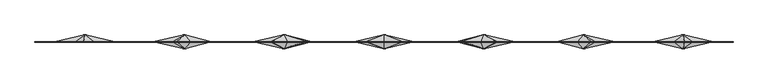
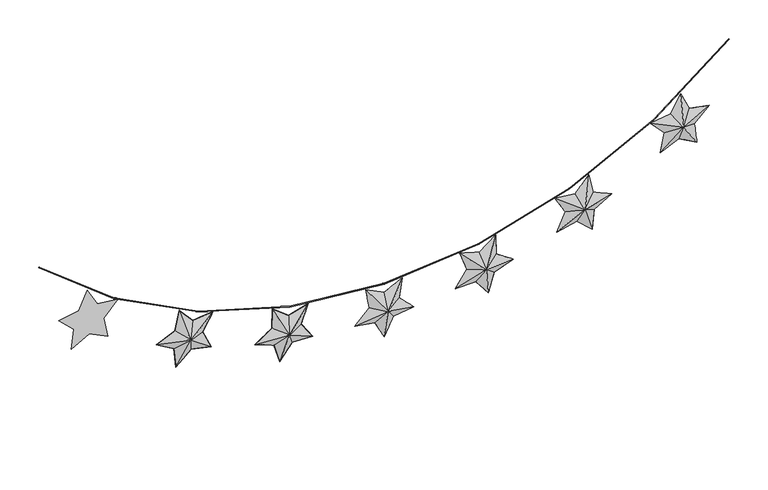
"""IFC4 building model written with IfcOpenShell, lengths in millimetres: furniture geometry, Гирлянда_звездочки_world_of_REVIT : Гирлянда звездочки_world_of_REVIT."""

from ifc_helpers import new_model, si_unit, point, frame, origin, place, context, project, spatial, circle_curve, ellipse_curve, trimmed, source, transform, mapped, element, save
from ifc_brep_helpers import plane_surface, revolved_surface, spline_surface, advanced_brep


def furniture_6a52702a(model_context):
    return source(origin(), model_context, "Body", "AdvancedBrep", [
        advanced_brep(
        [(0.0922072, -20.0, 1527.5237632), (-0.1817259, -20.0, 1526.6806837), (0.5889831, -20.0, 1526.1161692), (1.3269529, -20.0, 1526.6523356), (1.0364943, -20.0, 1527.5237632), (-52.5, 0.0, 1599.9107264), (0.4006727, 0.0, 1572.9564873), (53.3013454, 0.0, 1599.9107264), (44.0135476, 0.0, 1541.269879), (85.9957592, 0.0, 1499.2876674), (27.3549117, 0.0, 1489.9998696), (0.4006727, 0.0, 1437.0991969), (-26.5535663, 0.0, 1489.9998696), (-85.1944138, 0.0, 1499.2876674), (-43.2122022, 0.0, 1541.269879)],
        [
            (0, 1),
            (1, 2),
            (2, 3),
            (3, 4),
            (4, 0),
            (5, 6),
            (6, 7),
            (7, 8),
            (8, 9),
            (9, 10),
            (10, 11),
            (11, 12),
            (12, 13),
            (13, 14),
            (14, 5),
            (14, 1),
            (0, 5),
            (13, 1),
            (12, 1),
            (11, 2),
            (10, 3),
            (9, 3),
            (8, 4),
            (7, 4),
            (6, 0),
        ],
        [
            plane_surface(frame((0.5725823, -20.0, 1526.899343), z_axis=(0.0, -1.0000000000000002, 0.0), x_axis=(-0.3090169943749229, 0.0, -0.9510565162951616))),
            plane_surface(frame((0.4006727, 0.0, 1527.0991969), z_axis=(0.0, 1.0000000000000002, 0.0), x_axis=(-0.3090169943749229, 0.0, -0.9510565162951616))),
            spline_surface(1, 1, [[(-52.5, 0.0, 1599.9107264), (0.0922072, -20.0, 1527.5237632)], [(-43.2122022, 0.0, 1541.269879), (-0.1817259, -20.0, 1526.6806837)]], [2, 2], [2, 2], [0.0, 1.0], [0.0, 1.0]),
            plane_surface(frame((-64.203308, 0.0, 1520.2787732), z_axis=(-0.3115874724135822, -0.8976783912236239, 0.31158747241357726), x_axis=(-0.7071067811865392, 0.0, -0.707106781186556))),
            plane_surface(frame((-55.87399, 0.0, 1494.6437685), z_axis=(-0.06946642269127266, -0.8959966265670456, -0.43859373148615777), x_axis=(0.9876883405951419, 0.0, -0.15643446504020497))),
            spline_surface(1, 1, [[(-26.5535663, 0.0, 1489.9998696), (-0.1817259, -20.0, 1526.6806837)], [(0.4006727, 0.0, 1437.0991969), (0.5889831, -20.0, 1526.1161692)]], [2, 2], [2, 2], [0.0, 1.0], [0.0, 1.0]),
            spline_surface(1, 1, [[(0.4006727, 0.0, 1437.0991969), (0.5889831, -20.0, 1526.1161692)], [(27.3549117, 0.0, 1489.9998696), (1.3269529, -20.0, 1526.6523356)]], [2, 2], [2, 2], [0.0, 1.0], [0.0, 1.0]),
            plane_surface(frame((56.6753355, 0.0, 1494.6437685), z_axis=(0.06957961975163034, -0.8956376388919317, -0.43930842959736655), x_axis=(0.987688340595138, 0.0, 0.1564344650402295))),
            spline_surface(1, 1, [[(85.9957592, 0.0, 1499.2876674), (1.3269529, -20.0, 1526.6523356)], [(44.0135476, 0.0, 1541.269879), (1.0364943, -20.0, 1527.5237632)]], [2, 2], [2, 2], [0.0, 1.0], [0.0, 1.0]),
            plane_surface(frame((48.6574465, 0.0, 1570.5903027), z_axis=(0.4390925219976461, -0.8957461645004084, -0.06954542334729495), x_axis=(0.1564344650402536, 0.0, 0.9876883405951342))),
            spline_surface(1, 1, [[(53.3013454, 0.0, 1599.9107264), (1.0364943, -20.0, 1527.5237632)], [(0.4006727, 0.0, 1572.9564873), (0.0922072, -20.0, 1527.5237632)]], [2, 2], [2, 2], [0.0, 1.0], [0.0, 1.0]),
            plane_surface(frame((-26.0496636, 0.0, 1586.4336069), z_axis=(0.2005366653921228, -0.8971529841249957, 0.393575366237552), x_axis=(-0.8910065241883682, 0.0, 0.45399049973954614))),
        ],
        [
            (0, [[1, 2, 3, 4, 5]]),
            (1, [[6, 7, 8, 9, 10, 11, 12, 13, 14, 15]]),
            (2, [[-15, 16, -1, 17]]),
            (3, [[-14, 18, -16]]),
            (4, [[-13, 19, -18]]),
            (5, [[-12, 20, -2, -19]]),
            (6, [[-11, 21, -3, -20]]),
            (7, [[-10, 22, -21]]),
            (8, [[-9, 23, -4, -22]]),
            (9, [[-8, 24, -23]]),
            (10, [[-7, 25, -5, -24]]),
            (11, [[-6, -17, -25]]),
        ],
    ),
        advanced_brep(
        [(0.0922072, 20.0, 1527.5237632), (1.0364943, 20.0, 1527.5237632), (1.3269529, 20.0, 1526.6523356), (0.5889831, 20.0, 1526.1161692), (-0.1817259, 20.0, 1526.6806837), (-52.5, 0.0, 1599.9107264), (-43.2122022, 0.0, 1541.269879), (-85.1944138, 0.0, 1499.2876674), (-26.5535663, 0.0, 1489.9998696), (0.4006727, 0.0, 1437.0991969), (27.3549117, 0.0, 1489.9998696), (85.9957592, 0.0, 1499.2876674), (44.0135476, 0.0, 1541.269879), (53.3013454, 0.0, 1599.9107264), (0.4006727, 0.0, 1572.9564873)],
        [
            (0, 1),
            (1, 2),
            (2, 3),
            (3, 4),
            (4, 0),
            (5, 6),
            (6, 7),
            (7, 8),
            (8, 9),
            (9, 10),
            (10, 11),
            (11, 12),
            (12, 13),
            (13, 14),
            (14, 5),
            (5, 0),
            (4, 6),
            (4, 7),
            (4, 8),
            (3, 9),
            (11, 2),
            (1, 12),
            (1, 13),
            (1, 14),
            (10, 3),
        ],
        [
            plane_surface(frame((0.5725823, 20.0, 1526.899343), z_axis=(0.0, 1.0, 0.0), x_axis=(1.0, 0.0, 0.0))),
            plane_surface(frame((0.4006727, 0.0, 1527.0991969), z_axis=(0.0, -1.0, 0.0), x_axis=(1.0, 0.0, 0.0))),
            spline_surface(1, 1, [[(-43.2122022, 0.0, 1541.269879), (-0.1817259, 20.0, 1526.6806837)], [(-52.5, 0.0, 1599.9107264), (0.0922072, 20.0, 1527.5237632)]], [2, 2], [2, 2], [0.0, 1.0], [0.0, 1.0]),
            plane_surface(frame((-64.203308, 0.0, 1520.2787732), z_axis=(-0.31158747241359, 0.8976783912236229, 0.31158747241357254), x_axis=(0.7071067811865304, 0.0, 0.7071067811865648))),
            plane_surface(frame((-55.87399, 0.0, 1494.6437685), z_axis=(-0.06946642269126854, 0.895996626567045, -0.43859373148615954), x_axis=(-0.9876883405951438, 0.0, 0.1564344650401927))),
            spline_surface(1, 1, [[(0.4006727, 0.0, 1437.0991969), (0.5889831, 20.0, 1526.1161692)], [(-26.5535663, 0.0, 1489.9998696), (-0.1817259, 20.0, 1526.6806837)]], [2, 2], [2, 2], [0.0, 1.0], [0.0, 1.0]),
            spline_surface(1, 1, [[(44.0135476, 0.0, 1541.269879), (1.0364943, 20.0, 1527.5237632)], [(85.9957592, 0.0, 1499.2876674), (1.3269529, 20.0, 1526.6523356)]], [2, 2], [2, 2], [0.0, 1.0], [0.0, 1.0]),
            plane_surface(frame((48.6574465, 0.0, 1570.5903027), z_axis=(0.4390925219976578, 0.8957461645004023, -0.06954542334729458), x_axis=(-0.15643446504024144, 0.0, -0.9876883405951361))),
            plane_surface(frame((26.8510091, 0.0, 1586.4336069), z_axis=(-0.19994765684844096, 0.8977906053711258, 0.39241937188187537), x_axis=(0.8910065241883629, 0.0, 0.4539904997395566))),
            spline_surface(1, 1, [[(-52.5, 0.0, 1599.9107264), (0.0922072, 20.0, 1527.5237632)], [(0.4006727, 0.0, 1572.9564873), (1.0364943, 20.0, 1527.5237632)]], [2, 2], [2, 2], [0.0, 1.0], [0.0, 1.0]),
            spline_surface(1, 1, [[(85.9957592, 0.0, 1499.2876674), (1.3269529, 20.0, 1526.6523356)], [(27.3549117, 0.0, 1489.9998696), (0.5889831, 20.0, 1526.1161692)]], [2, 2], [2, 2], [0.0, 1.0], [0.0, 1.0]),
            plane_surface(frame((13.8777922, 0.0, 1463.5495332), z_axis=(0.396525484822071, 0.8955151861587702, -0.2020398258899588), x_axis=(-0.4539904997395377, 0.0, -0.8910065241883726))),
        ],
        [
            (0, [[1, 2, 3, 4, 5]]),
            (1, [[6, 7, 8, 9, 10, 11, 12, 13, 14, 15]]),
            (2, [[-6, 16, -5, 17]]),
            (3, [[-7, -17, 18]]),
            (4, [[-8, -18, 19]]),
            (5, [[-9, -19, -4, 20]]),
            (6, [[-12, 21, -2, 22]]),
            (7, [[-13, -22, 23]]),
            (8, [[-14, -23, 24]]),
            (9, [[-15, -24, -1, -16]]),
            (10, [[-11, 25, -3, -21]]),
            (11, [[-10, -20, -25]]),
        ],
    ),
        advanced_brep(
        [(-1000.6896552, 0.0, 1998.5517241), (-999.3103448, 0.0, 2000.0), (1000.6896552, 0.0, 1998.5517241), (999.3103448, 0.0, 2000.0)],
        [
            (0, 1, circle_curve(frame((-1000.0, 0.0, 1999.2758621), z_axis=(-0.7241379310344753, 0.0, 0.6896551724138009), x_axis=(0.6896551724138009, 0.0, 0.7241379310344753)), 1.0)),
            (1, 0, circle_curve(frame((-1000.0, 0.0, 1999.2758621), z_axis=(-0.7241379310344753, 0.0, 0.6896551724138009), x_axis=(0.6896551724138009, 0.0, 0.7241379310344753)), 1.0)),
            (2, 3, circle_curve(frame((1000.0, 0.0, 1999.2758621), z_axis=(0.7241379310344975, 0.0, 0.6896551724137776), x_axis=(-0.6896551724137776, 0.0, 0.7241379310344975)), 1.0)),
            (3, 2, circle_curve(frame((1000.0, 0.0, 1999.2758621), z_axis=(0.7241379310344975, 0.0, 0.6896551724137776), x_axis=(-0.6896551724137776, 0.0, 0.7241379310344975)), 1.0)),
            (3, 1, circle_curve(frame((0.0, 0.0, 3049.2758621), z_axis=(0.0, 1.0, 0.0), x_axis=(-0.6896551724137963, 0.0, -0.7241379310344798)), 1449.0)),
            (0, 2, circle_curve(frame((0.0, 0.0, 3049.2758621), z_axis=(0.0, -1.0, 0.0), x_axis=(-0.6896551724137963, 0.0, -0.7241379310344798)), 1451.0)),
        ],
        [
            plane_surface(frame((-1000.0, 0.0, 1999.2758621), z_axis=(-0.7241379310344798, 0.0, 0.6896551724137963), x_axis=(0.0, -1.0, 0.0))),
            plane_surface(frame((1000.0, 0.0, 1999.2758621), z_axis=(0.7241379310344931, 0.0, 0.6896551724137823), x_axis=(0.0, -1.0, 0.0))),
            revolved_surface(trimmed(ellipse_curve(frame((-1000.0, 0.0, 1999.2758621), z_axis=(-0.7241379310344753, 0.0, 0.6896551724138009), x_axis=(0.6896551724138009, 0.0, 0.7241379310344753)), 1.0, 1.0), [point((-1000.6896552, 0.0, 1998.5517241))], [point((-999.3103448, 0.0, 2000.0))], True, "CARTESIAN"), (0.0, 0.0, 3049.2758621), (0.0, -1.0, 0.0)),
            revolved_surface(trimmed(ellipse_curve(frame((-1000.0, 0.0, 1999.2758621), z_axis=(-0.7241379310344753, 0.0, 0.6896551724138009), x_axis=(0.6896551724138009, 0.0, 0.7241379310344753)), 1.0, 1.0), [point((-999.3103448, 0.0, 2000.0))], [point((-1000.6896552, 0.0, 1998.5517241))], True, "CARTESIAN"), (0.0, 0.0, 3049.2758621), (0.0, -1.0, 0.0)),
        ],
        [
            (0, [[1, 2]]),
            (1, [[3, 4]]),
            (2, [[5, -1, 6, -4]]),
            (3, [[-6, -2, -5, -3]]),
        ],
    ),
        advanced_brep(
        [(285.2777109, -20.0, 1555.1232235), (285.1696778, -20.0, 1554.2433648), (286.0339411, -20.0, 1553.8362803), (286.656047, -20.0, 1554.5034071), (286.2046487, -20.0, 1555.303402), (219.8396869, 0.0, 1616.1451681), (276.9115365, 0.0, 1599.7800786), (323.6971636, 0.0, 1636.3330165), (325.76921, 0.0, 1576.9973713), (374.9906737, 0.0, 1543.7970748), (319.1994192, 0.0, 1523.4907188), (302.8343296, 0.0, 1466.4188692), (266.2813917, 0.0, 1513.2044963), (206.9457464, 0.0, 1511.1324499), (240.1460429, 0.0, 1560.3539136)],
        [
            (0, 1),
            (1, 2),
            (2, 3),
            (3, 4),
            (4, 0),
            (5, 6),
            (6, 7),
            (7, 8),
            (8, 9),
            (9, 10),
            (10, 11),
            (11, 12),
            (12, 13),
            (13, 14),
            (14, 5),
            (14, 1),
            (0, 5),
            (13, 1),
            (12, 1),
            (11, 2),
            (10, 3),
            (9, 3),
            (8, 4),
            (7, 4),
            (6, 4),
        ],
        [
            plane_surface(frame((285.8684051, -20.0, 1554.6019356), z_axis=(0.0, -1.0000000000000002, 0.0), x_axis=(-0.12186934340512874, 0.0, -0.9925461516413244))),
            plane_surface(frame((285.66152, 0.0, 1554.7653157), z_axis=(0.0, 1.0000000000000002, 0.0), x_axis=(-0.12186934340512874, 0.0, -0.9925461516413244))),
            spline_surface(1, 1, [[(219.8396869, 0.0, 1616.1451681), (285.2777109, -20.0, 1555.1232235)], [(240.1460429, 0.0, 1560.3539136), (285.1696778, -20.0, 1554.2433648)]], [2, 2], [2, 2], [0.0, 1.0], [0.0, 1.0]),
            plane_surface(frame((223.5458946, 0.0, 1535.7431817), z_axis=(-0.365316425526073, -0.8976783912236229, 0.24640904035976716), x_axis=(-0.5591929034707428, 0.0, -0.8290375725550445))),
            plane_surface(frame((236.613569, 0.0, 1512.1684731), z_axis=(0.015497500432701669, -0.8959966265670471, -0.4437903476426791), x_axis=(0.9993908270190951, 0.0, 0.034899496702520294))),
            spline_surface(1, 1, [[(266.2813917, 0.0, 1513.2044963), (285.1696778, -20.0, 1554.2433648)], [(302.8343296, 0.0, 1466.4188692), (286.0339411, -20.0, 1553.8362803)]], [2, 2], [2, 2], [0.0, 1.0], [0.0, 1.0]),
            spline_surface(1, 1, [[(302.8343296, 0.0, 1466.4188692), (286.0339411, -20.0, 1553.8362803)], [(319.1994192, 0.0, 1523.4907188), (286.656047, -20.0, 1554.5034071)]], [2, 2], [2, 2], [0.0, 1.0], [0.0, 1.0]),
            plane_surface(frame((347.0950464, 0.0, 1533.6438968), z_axis=(0.15212524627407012, -0.895637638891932, -0.41796067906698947), x_axis=(0.9396926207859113, 0.0, 0.34202014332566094))),
            spline_surface(1, 1, [[(374.9906737, 0.0, 1543.7970748), (286.656047, -20.0, 1554.5034071)], [(325.76921, 0.0, 1576.9973713), (286.2046487, -20.0, 1555.303402)]], [2, 2], [2, 2], [0.0, 1.0], [0.0, 1.0]),
            plane_surface(frame((324.7331868, 0.0, 1606.6651939), z_axis=(0.44429504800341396, -0.8957461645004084, 0.015515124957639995), x_axis=(-0.03489949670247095, 0.0, 0.9993908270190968))),
            plane_surface(frame((300.3043501, 0.0, 1618.0565475), z_axis=(-0.271151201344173, -0.8977906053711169, 0.3470577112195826), x_axis=(-0.7880107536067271, 0.0, -0.6156614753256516))),
            spline_surface(1, 1, [[(276.9115365, 0.0, 1599.7800786), (286.2046487, -20.0, 1555.303402)], [(219.8396869, 0.0, 1616.1451681), (285.2777109, -20.0, 1555.1232235)]], [2, 2], [2, 2], [0.0, 1.0], [0.0, 1.0]),
        ],
        [
            (0, [[1, 2, 3, 4, 5]]),
            (1, [[6, 7, 8, 9, 10, 11, 12, 13, 14, 15]]),
            (2, [[-15, 16, -1, 17]]),
            (3, [[-14, 18, -16]]),
            (4, [[-13, 19, -18]]),
            (5, [[-12, 20, -2, -19]]),
            (6, [[-11, 21, -3, -20]]),
            (7, [[-10, 22, -21]]),
            (8, [[-9, 23, -4, -22]]),
            (9, [[-8, 24, -23]]),
            (10, [[-7, 25, -24]]),
            (11, [[-6, -17, -5, -25]]),
        ],
    ),
        advanced_brep(
        [(285.2777109, 20.0, 1555.1232235), (286.2046487, 20.0, 1555.303402), (286.656047, 20.0, 1554.5034071), (286.0339411, 20.0, 1553.8362803), (285.1696778, 20.0, 1554.2433648), (219.8396869, 0.0, 1616.1451681), (240.1460429, 0.0, 1560.3539136), (206.9457464, 0.0, 1511.1324499), (266.2813917, 0.0, 1513.2044963), (302.8343296, 0.0, 1466.4188692), (319.1994192, 0.0, 1523.4907188), (374.9906737, 0.0, 1543.7970748), (325.76921, 0.0, 1576.9973713), (323.6971636, 0.0, 1636.3330165), (276.9115365, 0.0, 1599.7800786)],
        [
            (0, 1),
            (1, 2),
            (2, 3),
            (3, 4),
            (4, 0),
            (5, 6),
            (6, 7),
            (7, 8),
            (8, 9),
            (9, 10),
            (10, 11),
            (11, 12),
            (12, 13),
            (13, 14),
            (14, 5),
            (5, 0),
            (4, 6),
            (4, 7),
            (4, 8),
            (3, 9),
            (11, 2),
            (1, 12),
            (1, 13),
            (10, 3),
            (14, 0),
        ],
        [
            plane_surface(frame((285.8684051, 20.0, 1554.6019356), z_axis=(0.0, 1.0, 0.0), x_axis=(0.9816271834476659, 0.0, 0.19080899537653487))),
            plane_surface(frame((285.66152, 0.0, 1554.7653157), z_axis=(0.0, -1.0, 0.0), x_axis=(0.9816271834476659, 0.0, 0.19080899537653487))),
            spline_surface(1, 1, [[(240.1460429, 0.0, 1560.3539136), (285.1696778, 20.0, 1554.2433648)], [(219.8396869, 0.0, 1616.1451681), (285.2777109, 20.0, 1555.1232235)]], [2, 2], [2, 2], [0.0, 1.0], [0.0, 1.0]),
            plane_surface(frame((223.5458946, 0.0, 1535.7431817), z_axis=(-0.3653164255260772, 0.8976783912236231, 0.24640904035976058), x_axis=(0.5591929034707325, 0.0, 0.8290375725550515))),
            plane_surface(frame((236.613569, 0.0, 1512.1684731), z_axis=(0.015497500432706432, 0.8959966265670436, -0.44379034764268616), x_axis=(-0.9993908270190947, 0.0, -0.034899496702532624))),
            spline_surface(1, 1, [[(302.8343296, 0.0, 1466.4188692), (286.0339411, 20.0, 1553.8362803)], [(266.2813917, 0.0, 1513.2044963), (285.1696778, 20.0, 1554.2433648)]], [2, 2], [2, 2], [0.0, 1.0], [0.0, 1.0]),
            spline_surface(1, 1, [[(325.76921, 0.0, 1576.9973713), (286.2046487, 20.0, 1555.303402)], [(374.9906737, 0.0, 1543.7970748), (286.656047, 20.0, 1554.5034071)]], [2, 2], [2, 2], [0.0, 1.0], [0.0, 1.0]),
            plane_surface(frame((324.7331868, 0.0, 1606.6651939), z_axis=(0.44429504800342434, 0.8957461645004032, 0.015515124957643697), x_axis=(0.034899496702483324, 0.0, -0.9993908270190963))),
            spline_surface(1, 1, [[(374.9906737, 0.0, 1543.7970748), (286.656047, 20.0, 1554.5034071)], [(319.1994192, 0.0, 1523.4907188), (286.0339411, 20.0, 1553.8362803)]], [2, 2], [2, 2], [0.0, 1.0], [0.0, 1.0]),
            plane_surface(frame((311.0168744, 0.0, 1494.954794), z_axis=(0.42779121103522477, 0.8955151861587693, -0.12266715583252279), x_axis=(-0.27563735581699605, 0.0, -0.9612616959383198))),
            plane_surface(frame((248.3756117, 0.0, 1607.9626233), z_axis=(0.12175452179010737, 0.8971529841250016, 0.4246084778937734), x_axis=(0.9612616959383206, 0.0, -0.27563735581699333))),
            spline_surface(1, 1, [[(276.9115365, 0.0, 1599.7800786), (285.2777109, 20.0, 1555.1232235)], [(323.6971636, 0.0, 1636.3330165), (286.2046487, 20.0, 1555.303402)]], [2, 2], [2, 2], [0.0, 1.0], [0.0, 1.0]),
        ],
        [
            (0, [[1, 2, 3, 4, 5]]),
            (1, [[6, 7, 8, 9, 10, 11, 12, 13, 14, 15]]),
            (2, [[-6, 16, -5, 17]]),
            (3, [[-7, -17, 18]]),
            (4, [[-8, -18, 19]]),
            (5, [[-9, -19, -4, 20]]),
            (6, [[-12, 21, -2, 22]]),
            (7, [[-13, -22, 23]]),
            (8, [[-11, 24, -3, -21]]),
            (9, [[-10, -20, -24]]),
            (10, [[-15, 25, -16]]),
            (11, [[-14, -23, -1, -25]]),
        ],
    ),
        advanced_brep(
        [(570.6217723, -20.0, 1639.3481068), (570.6681663, -20.0, 1638.4628554), (571.5899891, -20.0, 1638.2120332), (572.0867984, -20.0, 1638.9770524), (571.5033402, -20.0, 1639.686509), (495.5815495, 0.0, 1688.0797973), (554.6281174, 0.0, 1681.8737529), (594.3556146, 0.0, 1725.9956085), (606.6997087, 0.0, 1667.9212121), (660.9385587, 0.0, 1643.7725202), (609.5210604, 0.0, 1614.0866137), (603.315016, 0.0, 1555.0400458), (559.1931604, 0.0, 1594.767543), (501.118764, 0.0, 1582.423449), (525.2674559, 0.0, 1636.662299)],
        [
            (0, 1),
            (1, 2),
            (2, 3),
            (3, 4),
            (4, 0),
            (5, 6),
            (6, 7),
            (7, 8),
            (8, 9),
            (9, 10),
            (10, 11),
            (11, 12),
            (12, 13),
            (13, 14),
            (14, 5),
            (14, 1),
            (0, 5),
            (13, 1),
            (12, 1),
            (11, 2),
            (10, 3),
            (9, 3),
            (8, 4),
            (7, 4),
            (6, 0),
        ],
        [
            plane_surface(frame((571.2940133, -20.0, 1638.9373114), z_axis=(0.0, -1.0, 0.0), x_axis=(0.052335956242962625, 0.0, -0.9986295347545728))),
            plane_surface(frame((571.0619006, 0.0, 1639.0622842), z_axis=(0.0, 1.0, 0.0), x_axis=(0.052335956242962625, 0.0, -0.9986295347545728))),
            spline_surface(1, 1, [[(495.5815495, 0.0, 1688.0797973), (570.6217723, -20.0, 1639.3481068)], [(525.2674559, 0.0, 1636.662299), (570.6681663, -20.0, 1638.4628554)]], [2, 2], [2, 2], [0.0, 1.0], [0.0, 1.0]),
            plane_surface(frame((513.19311, 0.0, 1609.542874), z_axis=(-0.40255492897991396, -0.8976783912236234, 0.17922900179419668), x_axis=(-0.40673664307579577, 0.0, -0.913545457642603))),
            plane_surface(frame((530.1559622, 0.0, 1588.595496), z_axis=(0.09232544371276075, -0.8959966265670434, -0.43435706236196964), x_axis=(0.9781476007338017, 0.0, 0.2079116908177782))),
            spline_surface(1, 1, [[(559.1931604, 0.0, 1594.767543), (570.6681663, -20.0, 1638.4628554)], [(603.315016, 0.0, 1555.0400458), (571.5899891, -20.0, 1638.2120332)]], [2, 2], [2, 2], [0.0, 1.0], [0.0, 1.0]),
            spline_surface(1, 1, [[(603.315016, 0.0, 1555.0400458), (571.5899891, -20.0, 1638.2120332)], [(609.5210604, 0.0, 1614.0866137), (572.0867984, -20.0, 1638.9770524)]], [2, 2], [2, 2], [0.0, 1.0], [0.0, 1.0]),
            plane_surface(frame((635.2298096, 0.0, 1628.929567), z_axis=(0.22239223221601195, -0.8956376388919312, -0.38519464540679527), x_axis=(0.866025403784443, 0.0, 0.49999999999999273))),
            spline_surface(1, 1, [[(660.9385587, 0.0, 1643.7725202), (572.0867984, -20.0, 1638.9770524)], [(606.6997087, 0.0, 1667.9212121), (571.5033402, -20.0, 1639.686509)]], [2, 2], [2, 2], [0.0, 1.0], [0.0, 1.0]),
            plane_surface(frame((600.5276616, 0.0, 1696.9584103), z_axis=(0.43485103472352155, -0.8957461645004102, 0.09243044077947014), x_axis=(-0.20791169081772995, 0.0, 0.9781476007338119))),
            spline_surface(1, 1, [[(594.3556146, 0.0, 1725.9956085), (571.5033402, -20.0, 1639.686509)], [(554.6281174, 0.0, 1681.8737529), (570.6217723, -20.0, 1639.3481068)]], [2, 2], [2, 2], [0.0, 1.0], [0.0, 1.0]),
            plane_surface(frame((525.1048334, 0.0, 1684.9767751), z_axis=(0.046172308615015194, -0.8971529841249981, 0.4393001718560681), x_axis=(-0.9945218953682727, 0.0, 0.1045284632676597))),
        ],
        [
            (0, [[1, 2, 3, 4, 5]]),
            (1, [[6, 7, 8, 9, 10, 11, 12, 13, 14, 15]]),
            (2, [[-15, 16, -1, 17]]),
            (3, [[-14, 18, -16]]),
            (4, [[-13, 19, -18]]),
            (5, [[-12, 20, -2, -19]]),
            (6, [[-11, 21, -3, -20]]),
            (7, [[-10, 22, -21]]),
            (8, [[-9, 23, -4, -22]]),
            (9, [[-8, 24, -23]]),
            (10, [[-7, 25, -5, -24]]),
            (11, [[-6, -17, -25]]),
        ],
    ),
        advanced_brep(
        [(570.6217723, 20.0, 1639.3481068), (571.5033402, 20.0, 1639.686509), (572.0867984, 20.0, 1638.9770524), (571.5899891, 20.0, 1638.2120332), (570.6681663, 20.0, 1638.4628554), (495.5815495, 0.0, 1688.0797973), (525.2674559, 0.0, 1636.662299), (501.118764, 0.0, 1582.423449), (559.1931604, 0.0, 1594.767543), (603.315016, 0.0, 1555.0400458), (609.5210604, 0.0, 1614.0866137), (660.9385587, 0.0, 1643.7725202), (606.6997087, 0.0, 1667.9212121), (594.3556146, 0.0, 1725.9956085), (554.6281174, 0.0, 1681.8737529)],
        [
            (0, 1),
            (1, 2),
            (2, 3),
            (3, 4),
            (4, 0),
            (5, 6),
            (6, 7),
            (7, 8),
            (8, 9),
            (9, 10),
            (10, 11),
            (11, 12),
            (12, 13),
            (13, 14),
            (14, 5),
            (5, 0),
            (4, 6),
            (4, 7),
            (4, 8),
            (3, 9),
            (2, 10),
            (2, 11),
            (1, 12),
            (1, 13),
            (14, 0),
        ],
        [
            plane_surface(frame((571.2940133, 20.0, 1638.9373114), z_axis=(0.0, 1.0, 0.0), x_axis=(0.9335804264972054, 0.0, 0.3583679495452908))),
            plane_surface(frame((571.0619006, 0.0, 1639.0622842), z_axis=(0.0, -1.0, 0.0), x_axis=(0.9335804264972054, 0.0, 0.3583679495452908))),
            spline_surface(1, 1, [[(525.2674559, 0.0, 1636.662299), (570.6681663, 20.0, 1638.4628554)], [(495.5815495, 0.0, 1688.0797973), (570.6217723, 20.0, 1639.3481068)]], [2, 2], [2, 2], [0.0, 1.0], [0.0, 1.0]),
            plane_surface(frame((513.19311, 0.0, 1609.542874), z_axis=(-0.4025549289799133, 0.8976783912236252, 0.17922900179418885), x_axis=(0.4067366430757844, 0.0, 0.9135454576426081))),
            plane_surface(frame((530.1559622, 0.0, 1588.595496), z_axis=(0.09232544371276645, 0.8959966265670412, -0.43435706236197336), x_axis=(-0.9781476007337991, 0.0, -0.20791169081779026))),
            spline_surface(1, 1, [[(603.315016, 0.0, 1555.0400458), (571.5899891, 20.0, 1638.2120332)], [(559.1931604, 0.0, 1594.767543), (570.6681663, 20.0, 1638.4628554)]], [2, 2], [2, 2], [0.0, 1.0], [0.0, 1.0]),
            spline_surface(1, 1, [[(609.5210604, 0.0, 1614.0866137), (572.0867984, 20.0, 1638.9770524)], [(603.315016, 0.0, 1555.0400458), (571.5899891, 20.0, 1638.2120332)]], [2, 2], [2, 2], [0.0, 1.0], [0.0, 1.0]),
            plane_surface(frame((635.2298096, 0.0, 1628.929567), z_axis=(0.2223922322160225, 0.8956376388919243, -0.38519464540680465), x_axis=(-0.8660254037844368, 0.0, -0.5000000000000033))),
            spline_surface(1, 1, [[(606.6997087, 0.0, 1667.9212121), (571.5033402, 20.0, 1639.686509)], [(660.9385587, 0.0, 1643.7725202), (572.0867984, 20.0, 1638.9770524)]], [2, 2], [2, 2], [0.0, 1.0], [0.0, 1.0]),
            plane_surface(frame((600.5276616, 0.0, 1696.9584103), z_axis=(0.43485103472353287, 0.8957461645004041, 0.09243044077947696), x_axis=(0.20791169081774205, 0.0, -0.9781476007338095))),
            plane_surface(frame((525.1048334, 0.0, 1684.9767751), z_axis=(0.04617230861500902, 0.8971529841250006, 0.43930017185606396), x_axis=(0.9945218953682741, 0.0, -0.10452846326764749))),
            spline_surface(1, 1, [[(554.6281174, 0.0, 1681.8737529), (570.6217723, 20.0, 1639.3481068)], [(594.3556146, 0.0, 1725.9956085), (571.5033402, 20.0, 1639.686509)]], [2, 2], [2, 2], [0.0, 1.0], [0.0, 1.0]),
        ],
        [
            (0, [[1, 2, 3, 4, 5]]),
            (1, [[6, 7, 8, 9, 10, 11, 12, 13, 14, 15]]),
            (2, [[-6, 16, -5, 17]]),
            (3, [[-7, -17, 18]]),
            (4, [[-8, -18, 19]]),
            (5, [[-9, -19, -4, 20]]),
            (6, [[-10, -20, -3, 21]]),
            (7, [[-11, -21, 22]]),
            (8, [[-12, -22, -2, 23]]),
            (9, [[-13, -23, 24]]),
            (10, [[-15, 25, -16]]),
            (11, [[-14, -24, -1, -25]]),
        ],
    ),
        advanced_brep(
        [(856.4274722, -20.0, 1791.1650767), (856.6718154, -20.0, 1790.3129506), (857.6264346, -20.0, 1790.2759219), (857.9384188, -20.0, 1791.1330915), (857.2103216, -20.0, 1791.6931154), (772.3482802, 0.0, 1821.7673999), (831.2775447, 0.0, 1829.0030038), (860.0615708, 0.0, 1880.9307614), (885.1531832, 0.0, 1827.121625), (943.4341687, 0.0, 1815.792949), (900.0123736, 0.0, 1775.30147), (907.2479774, 0.0, 1716.3722055), (855.3202198, 0.0, 1745.1562316), (801.5110833, 0.0, 1720.0646192), (812.8397593, 0.0, 1778.3456047)],
        [
            (0, 1),
            (1, 2),
            (2, 3),
            (3, 4),
            (4, 0),
            (5, 6),
            (6, 7),
            (7, 8),
            (8, 9),
            (9, 10),
            (10, 11),
            (11, 12),
            (12, 13),
            (13, 14),
            (14, 5),
            (12, 1),
            (1, 13),
            (11, 2),
            (10, 3),
            (9, 3),
            (8, 4),
            (7, 4),
            (14, 0),
            (0, 5),
            (6, 0),
        ],
        [
            plane_surface(frame((857.1748925, -20.0, 1790.9160312), z_axis=(0.0, -1.0000000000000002, 0.0), x_axis=(0.2756373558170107, 0.0, -0.9612616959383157))),
            plane_surface(frame((856.9206161, 0.0, 1790.985587), z_axis=(0.0, 1.0000000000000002, 0.0), x_axis=(0.2756373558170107, 0.0, -0.9612616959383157))),
            plane_surface(frame((828.4156515, 0.0, 1732.6104254), z_axis=(0.18766822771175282, -0.8959966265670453, -0.4024558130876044), x_axis=(0.9063077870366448, 0.0, 0.4226182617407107))),
            spline_surface(1, 1, [[(855.3202198, 0.0, 1745.1562316), (856.6718154, -20.0, 1790.3129506)], [(907.2479774, 0.0, 1716.3722055), (857.6264346, -20.0, 1790.2759219)]], [2, 2], [2, 2], [0.0, 1.0], [0.0, 1.0]),
            spline_surface(1, 1, [[(907.2479774, 0.0, 1716.3722055), (857.6264346, -20.0, 1790.2759219)], [(900.0123736, 0.0, 1775.30147), (857.9384188, -20.0, 1791.1330915)]], [2, 2], [2, 2], [0.0, 1.0], [0.0, 1.0]),
            plane_surface(frame((921.7232712, 0.0, 1795.5472095), z_axis=(0.30334227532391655, -0.8956376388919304, -0.3252947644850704), x_axis=(0.731353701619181, 0.0, 0.6819983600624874))),
            spline_surface(1, 1, [[(943.4341687, 0.0, 1815.792949), (857.9384188, -20.0, 1791.1330915)], [(885.1531832, 0.0, 1827.121625), (857.2103216, -20.0, 1791.6931154)]], [2, 2], [2, 2], [0.0, 1.0], [0.0, 1.0]),
            plane_surface(frame((872.607377, 0.0, 1854.0261932), z_axis=(0.40291350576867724, -0.8957461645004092, 0.1878816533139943), x_axis=(-0.42261826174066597, 0.0, 0.9063077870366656))),
            plane_surface(frame((792.5940198, 0.0, 1800.0565023), z_axis=(-0.3230535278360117, -0.8971529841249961, -0.3012522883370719), x_axis=(0.6819983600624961, 0.0, -0.7313537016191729))),
            spline_surface(1, 1, [[(812.8397593, 0.0, 1778.3456047), (856.4274722, -20.0, 1791.1650767)], [(801.5110833, 0.0, 1720.0646192), (856.6718154, -20.0, 1790.3129506)]], [2, 2], [2, 2], [0.0, 1.0], [0.0, 1.0]),
            spline_surface(1, 1, [[(860.0615708, 0.0, 1880.9307614), (857.2103216, -20.0, 1791.6931154)], [(831.2775447, 0.0, 1829.0030038), (856.4274722, -20.0, 1791.1650767)]], [2, 2], [2, 2], [0.0, 1.0], [0.0, 1.0]),
            plane_surface(frame((801.8129125, 0.0, 1825.3852018), z_axis=(-0.05383212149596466, -0.897152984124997, 0.43842744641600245), x_axis=(-0.9925461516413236, 0.0, -0.12186934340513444))),
        ],
        [
            (0, [[1, 2, 3, 4, 5]]),
            (1, [[6, 7, 8, 9, 10, 11, 12, 13, 14, 15]]),
            (2, [[-13, 16, 17]]),
            (3, [[-12, 18, -2, -16]]),
            (4, [[-11, 19, -3, -18]]),
            (5, [[-10, 20, -19]]),
            (6, [[-9, 21, -4, -20]]),
            (7, [[-8, 22, -21]]),
            (8, [[-15, 23, 24]]),
            (9, [[-14, -17, -1, -23]]),
            (10, [[-7, 25, -5, -22]]),
            (11, [[-6, -24, -25]]),
        ],
    ),
        advanced_brep(
        [(856.4274722, 20.0, 1791.1650767), (857.2103216, 20.0, 1791.6931154), (857.9384188, 20.0, 1791.1330915), (857.6264346, 20.0, 1790.2759219), (856.6718154, 20.0, 1790.3129506), (772.3482802, 0.0, 1821.7673999), (812.8397593, 0.0, 1778.3456047), (801.5110833, 0.0, 1720.0646192), (855.3202198, 0.0, 1745.1562316), (907.2479774, 0.0, 1716.3722055), (900.0123736, 0.0, 1775.30147), (943.4341687, 0.0, 1815.792949), (885.1531832, 0.0, 1827.121625), (860.0615708, 0.0, 1880.9307614), (831.2775447, 0.0, 1829.0030038)],
        [
            (0, 1),
            (1, 2),
            (2, 3),
            (3, 4),
            (4, 0),
            (5, 6),
            (6, 7),
            (7, 8),
            (8, 9),
            (9, 10),
            (10, 11),
            (11, 12),
            (12, 13),
            (13, 14),
            (14, 5),
            (5, 0),
            (4, 6),
            (4, 7),
            (4, 8),
            (3, 9),
            (11, 2),
            (1, 12),
            (1, 13),
            (1, 14),
            (10, 3),
        ],
        [
            plane_surface(frame((857.1748925, 20.0, 1790.9160312), z_axis=(0.0, 1.0000000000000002, 0.0), x_axis=(0.8290375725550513, 0.0, 0.5591929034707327))),
            plane_surface(frame((856.9206161, 0.0, 1790.985587), z_axis=(0.0, -1.0000000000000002, 0.0), x_axis=(0.8290375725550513, 0.0, 0.5591929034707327))),
            spline_surface(1, 1, [[(812.8397593, 0.0, 1778.3456047), (856.6718154, 20.0, 1790.3129506)], [(772.3482802, 0.0, 1821.7673999), (856.4274722, 20.0, 1791.1650767)]], [2, 2], [2, 2], [0.0, 1.0], [0.0, 1.0]),
            plane_surface(frame((807.1754213, 0.0, 1749.205112), z_axis=(-0.432555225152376, 0.8976783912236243, 0.0840802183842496), x_axis=(0.19080899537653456, 0.0, 0.981627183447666))),
            plane_surface(frame((828.4156515, 0.0, 1732.6104254), z_axis=(0.18766822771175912, 0.8959966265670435, -0.40245581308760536), x_axis=(-0.9063077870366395, 0.0, -0.42261826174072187))),
            spline_surface(1, 1, [[(907.2479774, 0.0, 1716.3722055), (857.6264346, 20.0, 1790.2759219)], [(855.3202198, 0.0, 1745.1562316), (856.6718154, 20.0, 1790.3129506)]], [2, 2], [2, 2], [0.0, 1.0], [0.0, 1.0]),
            spline_surface(1, 1, [[(885.1531832, 0.0, 1827.121625), (857.2103216, 20.0, 1791.6931154)], [(943.4341687, 0.0, 1815.792949), (857.9384188, 20.0, 1791.1330915)]], [2, 2], [2, 2], [0.0, 1.0], [0.0, 1.0]),
            plane_surface(frame((872.607377, 0.0, 1854.0261932), z_axis=(0.4029135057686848, 0.8957461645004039, 0.18788165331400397), x_axis=(0.4226182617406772, 0.0, -0.9063077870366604))),
            plane_surface(frame((845.6695578, 0.0, 1854.9668826), z_axis=(-0.3852022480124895, 0.8977906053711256, 0.21352109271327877), x_axis=(0.4848096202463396, 0.0, 0.8746197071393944))),
            spline_surface(1, 1, [[(772.3482802, 0.0, 1821.7673999), (856.4274722, 20.0, 1791.1650767)], [(831.2775447, 0.0, 1829.0030038), (857.2103216, 20.0, 1791.6931154)]], [2, 2], [2, 2], [0.0, 1.0], [0.0, 1.0]),
            spline_surface(1, 1, [[(943.4341687, 0.0, 1815.792949), (857.9384188, 20.0, 1791.1330915)], [(900.0123736, 0.0, 1775.30147), (857.6264346, 20.0, 1790.2759219)]], [2, 2], [2, 2], [0.0, 1.0], [0.0, 1.0]),
            plane_surface(frame((903.6301755, 0.0, 1745.8368377), z_axis=(0.4417137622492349, 0.8955151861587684, 0.054235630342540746), x_axis=(0.12186934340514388, 0.0, -0.9925461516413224))),
        ],
        [
            (0, [[1, 2, 3, 4, 5]]),
            (1, [[6, 7, 8, 9, 10, 11, 12, 13, 14, 15]]),
            (2, [[-6, 16, -5, 17]]),
            (3, [[-7, -17, 18]]),
            (4, [[-8, -18, 19]]),
            (5, [[-9, -19, -4, 20]]),
            (6, [[-12, 21, -2, 22]]),
            (7, [[-13, -22, 23]]),
            (8, [[-14, -23, 24]]),
            (9, [[-15, -24, -1, -16]]),
            (10, [[-11, 25, -3, -21]]),
            (11, [[-10, -20, -25]]),
        ],
    ),
        advanced_brep(
        [(-285.2777109, 20.0, 1555.1232235), (-285.1696778, 20.0, 1554.2433648), (-286.0339411, 20.0, 1553.8362803), (-286.656047, 20.0, 1554.5034071), (-286.2046487, 20.0, 1555.303402), (-219.8396869, 0.0, 1616.1451681), (-276.9115365, 0.0, 1599.7800786), (-323.6971636, 0.0, 1636.3330165), (-325.76921, 0.0, 1576.9973713), (-374.9906737, 0.0, 1543.7970748), (-319.1994192, 0.0, 1523.4907188), (-302.8343296, 0.0, 1466.4188692), (-266.2813917, 0.0, 1513.2044963), (-206.9457464, 0.0, 1511.1324499), (-240.1460429, 0.0, 1560.3539136)],
        [
            (0, 1),
            (1, 2),
            (2, 3),
            (3, 4),
            (4, 0),
            (5, 6),
            (6, 7),
            (7, 8),
            (8, 9),
            (9, 10),
            (10, 11),
            (11, 12),
            (12, 13),
            (13, 14),
            (14, 5),
            (14, 1),
            (0, 5),
            (13, 1),
            (12, 1),
            (11, 2),
            (10, 3),
            (9, 3),
            (8, 4),
            (7, 4),
            (6, 4),
        ],
        [
            plane_surface(frame((-285.8684051, 20.0, 1554.6019356), z_axis=(0.0, 1.0000000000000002, 0.0), x_axis=(0.12186934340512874, 0.0, -0.9925461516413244))),
            plane_surface(frame((-285.66152, 0.0, 1554.7653157), z_axis=(0.0, -1.0000000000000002, 0.0), x_axis=(0.12186934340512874, 0.0, -0.9925461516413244))),
            spline_surface(1, 1, [[(-219.8396869, 0.0, 1616.1451681), (-285.2777109, 20.0, 1555.1232235)], [(-240.1460429, 0.0, 1560.3539136), (-285.1696778, 20.0, 1554.2433648)]], [2, 2], [2, 2], [0.0, 1.0], [0.0, 1.0]),
            plane_surface(frame((-223.5458946, 0.0, 1535.7431817), z_axis=(0.3653164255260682, 0.8976783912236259, 0.24640904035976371), x_axis=(0.5591929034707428, 0.0, -0.8290375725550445))),
            plane_surface(frame((-236.613569, 0.0, 1512.1684731), z_axis=(-0.015497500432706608, 0.8959966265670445, -0.44379034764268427), x_axis=(-0.9993908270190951, 0.0, 0.034899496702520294))),
            spline_surface(1, 1, [[(-266.2813917, 0.0, 1513.2044963), (-285.1696778, 20.0, 1554.2433648)], [(-302.8343296, 0.0, 1466.4188692), (-286.0339411, 20.0, 1553.8362803)]], [2, 2], [2, 2], [0.0, 1.0], [0.0, 1.0]),
            spline_surface(1, 1, [[(-302.8343296, 0.0, 1466.4188692), (-286.0339411, 20.0, 1553.8362803)], [(-319.1994192, 0.0, 1523.4907188), (-286.656047, 20.0, 1554.5034071)]], [2, 2], [2, 2], [0.0, 1.0], [0.0, 1.0]),
            plane_surface(frame((-347.0950464, 0.0, 1533.6438968), z_axis=(-0.1521252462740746, 0.89563763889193, -0.4179606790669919), x_axis=(-0.9396926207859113, 0.0, 0.34202014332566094))),
            spline_surface(1, 1, [[(-374.9906737, 0.0, 1543.7970748), (-286.656047, 20.0, 1554.5034071)], [(-325.76921, 0.0, 1576.9973713), (-286.2046487, 20.0, 1555.303402)]], [2, 2], [2, 2], [0.0, 1.0], [0.0, 1.0]),
            plane_surface(frame((-324.7331868, 0.0, 1606.6651939), z_axis=(-0.444295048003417, 0.8957461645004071, 0.015515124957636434), x_axis=(0.03489949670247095, 0.0, 0.9993908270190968))),
            plane_surface(frame((-300.3043501, 0.0, 1618.0565475), z_axis=(0.27115120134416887, 0.8977906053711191, 0.3470577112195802), x_axis=(0.7880107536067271, 0.0, -0.6156614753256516))),
            spline_surface(1, 1, [[(-276.9115365, 0.0, 1599.7800786), (-286.2046487, 20.0, 1555.303402)], [(-219.8396869, 0.0, 1616.1451681), (-285.2777109, 20.0, 1555.1232235)]], [2, 2], [2, 2], [0.0, 1.0], [0.0, 1.0]),
        ],
        [
            (0, [[1, 2, 3, 4, 5]]),
            (1, [[6, 7, 8, 9, 10, 11, 12, 13, 14, 15]]),
            (2, [[-15, 16, -1, 17]]),
            (3, [[-14, 18, -16]]),
            (4, [[-13, 19, -18]]),
            (5, [[-12, 20, -2, -19]]),
            (6, [[-11, 21, -3, -20]]),
            (7, [[-10, 22, -21]]),
            (8, [[-9, 23, -4, -22]]),
            (9, [[-8, 24, -23]]),
            (10, [[-7, 25, -24]]),
            (11, [[-6, -17, -5, -25]]),
        ],
    ),
        advanced_brep(
        [(-285.2777109, -20.0, 1555.1232235), (-286.2046487, -20.0, 1555.303402), (-286.656047, -20.0, 1554.5034071), (-286.0339411, -20.0, 1553.8362803), (-285.1696778, -20.0, 1554.2433648), (-219.8396869, 0.0, 1616.1451681), (-240.1460429, 0.0, 1560.3539136), (-206.9457464, 0.0, 1511.1324499), (-266.2813917, 0.0, 1513.2044963), (-302.8343296, 0.0, 1466.4188692), (-319.1994192, 0.0, 1523.4907188), (-374.9906737, 0.0, 1543.7970748), (-325.76921, 0.0, 1576.9973713), (-323.6971636, 0.0, 1636.3330165), (-276.9115365, 0.0, 1599.7800786)],
        [
            (0, 1),
            (1, 2),
            (2, 3),
            (3, 4),
            (4, 0),
            (5, 6),
            (6, 7),
            (7, 8),
            (8, 9),
            (9, 10),
            (10, 11),
            (11, 12),
            (12, 13),
            (13, 14),
            (14, 5),
            (5, 0),
            (4, 6),
            (4, 7),
            (4, 8),
            (3, 9),
            (11, 2),
            (1, 12),
            (1, 13),
            (1, 14),
            (10, 3),
        ],
        [
            plane_surface(frame((-285.8684051, -20.0, 1554.6019356), z_axis=(0.0, -1.0, 0.0), x_axis=(-0.9816271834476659, 0.0, 0.19080899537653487))),
            plane_surface(frame((-285.66152, 0.0, 1554.7653157), z_axis=(0.0, 1.0, 0.0), x_axis=(-0.9816271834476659, 0.0, 0.19080899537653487))),
            spline_surface(1, 1, [[(-240.1460429, 0.0, 1560.3539136), (-285.1696778, -20.0, 1554.2433648)], [(-219.8396869, 0.0, 1616.1451681), (-285.2777109, -20.0, 1555.1232235)]], [2, 2], [2, 2], [0.0, 1.0], [0.0, 1.0]),
            plane_surface(frame((-223.5458946, 0.0, 1535.7431817), z_axis=(0.3653164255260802, -0.8976783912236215, 0.24640904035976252), x_axis=(-0.5591929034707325, 0.0, 0.8290375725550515))),
            plane_surface(frame((-236.613569, 0.0, 1512.1684731), z_axis=(-0.015497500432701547, -0.8959966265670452, -0.4437903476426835), x_axis=(0.9993908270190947, 0.0, -0.034899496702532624))),
            spline_surface(1, 1, [[(-302.8343296, 0.0, 1466.4188692), (-286.0339411, -20.0, 1553.8362803)], [(-266.2813917, 0.0, 1513.2044963), (-285.1696778, -20.0, 1554.2433648)]], [2, 2], [2, 2], [0.0, 1.0], [0.0, 1.0]),
            spline_surface(1, 1, [[(-325.76921, 0.0, 1576.9973713), (-286.2046487, -20.0, 1555.303402)], [(-374.9906737, 0.0, 1543.7970748), (-286.656047, -20.0, 1554.5034071)]], [2, 2], [2, 2], [0.0, 1.0], [0.0, 1.0]),
            plane_surface(frame((-324.7331868, 0.0, 1606.6651939), z_axis=(-0.44429504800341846, -0.8957461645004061, 0.015515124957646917), x_axis=(-0.034899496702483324, 0.0, -0.9993908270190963))),
            plane_surface(frame((-300.3043501, 0.0, 1618.0565475), z_axis=(0.27115120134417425, -0.897790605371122, 0.347057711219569), x_axis=(-0.7880107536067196, 0.0, 0.6156614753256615))),
            spline_surface(1, 1, [[(-219.8396869, 0.0, 1616.1451681), (-285.2777109, -20.0, 1555.1232235)], [(-276.9115365, 0.0, 1599.7800786), (-286.2046487, -20.0, 1555.303402)]], [2, 2], [2, 2], [0.0, 1.0], [0.0, 1.0]),
            spline_surface(1, 1, [[(-374.9906737, 0.0, 1543.7970748), (-286.656047, -20.0, 1554.5034071)], [(-319.1994192, 0.0, 1523.4907188), (-286.0339411, -20.0, 1553.8362803)]], [2, 2], [2, 2], [0.0, 1.0], [0.0, 1.0]),
            plane_surface(frame((-311.0168744, 0.0, 1494.954794), z_axis=(-0.4277912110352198, -0.8955151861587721, -0.12266715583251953), x_axis=(0.27563735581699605, 0.0, -0.9612616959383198))),
        ],
        [
            (0, [[1, 2, 3, 4, 5]]),
            (1, [[6, 7, 8, 9, 10, 11, 12, 13, 14, 15]]),
            (2, [[-6, 16, -5, 17]]),
            (3, [[-7, -17, 18]]),
            (4, [[-8, -18, 19]]),
            (5, [[-9, -19, -4, 20]]),
            (6, [[-12, 21, -2, 22]]),
            (7, [[-13, -22, 23]]),
            (8, [[-14, -23, 24]]),
            (9, [[-15, -24, -1, -16]]),
            (10, [[-11, 25, -3, -21]]),
            (11, [[-10, -20, -25]]),
        ],
    ),
        advanced_brep(
        [(-570.6217723, 20.0, 1639.3481068), (-570.6681663, 20.0, 1638.4628554), (-571.5899891, 20.0, 1638.2120332), (-572.0867984, 20.0, 1638.9770524), (-571.5033402, 20.0, 1639.686509), (-495.5815495, 0.0, 1688.0797973), (-554.6281174, 0.0, 1681.8737529), (-594.3556146, 0.0, 1725.9956085), (-606.6997087, 0.0, 1667.9212121), (-660.9385587, 0.0, 1643.7725202), (-609.5210604, 0.0, 1614.0866137), (-603.315016, 0.0, 1555.0400458), (-559.1931604, 0.0, 1594.767543), (-501.118764, 0.0, 1582.423449), (-525.2674559, 0.0, 1636.662299)],
        [
            (0, 1),
            (1, 2),
            (2, 3),
            (3, 4),
            (4, 0),
            (5, 6),
            (6, 7),
            (7, 8),
            (8, 9),
            (9, 10),
            (10, 11),
            (11, 12),
            (12, 13),
            (13, 14),
            (14, 5),
            (14, 1),
            (0, 5),
            (13, 1),
            (12, 1),
            (11, 2),
            (10, 3),
            (9, 3),
            (8, 4),
            (7, 4),
            (6, 0),
        ],
        [
            plane_surface(frame((-571.2940133, 20.0, 1638.9373114), z_axis=(0.0, 1.0, 0.0), x_axis=(-0.05233595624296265, 0.0, -0.9986295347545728))),
            plane_surface(frame((-571.0619006, 0.0, 1639.0622842), z_axis=(0.0, -1.0, 0.0), x_axis=(-0.05233595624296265, 0.0, -0.9986295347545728))),
            spline_surface(1, 1, [[(-495.5815495, 0.0, 1688.0797973), (-570.6217723, 20.0, 1639.3481068)], [(-525.2674559, 0.0, 1636.662299), (-570.6681663, 20.0, 1638.4628554)]], [2, 2], [2, 2], [0.0, 1.0], [0.0, 1.0]),
            plane_surface(frame((-513.19311, 0.0, 1609.542874), z_axis=(0.40255492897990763, 0.8976783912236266, 0.1792290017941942), x_axis=(0.40673664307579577, 0.0, -0.913545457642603))),
            plane_surface(frame((-530.1559622, 0.0, 1588.595496), z_axis=(-0.09232544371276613, 0.8959966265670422, -0.4343570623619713), x_axis=(-0.9781476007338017, 0.0, 0.20791169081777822))),
            spline_surface(1, 1, [[(-559.1931604, 0.0, 1594.767543), (-570.6681663, 20.0, 1638.4628554)], [(-603.315016, 0.0, 1555.0400458), (-571.5899891, 20.0, 1638.2120332)]], [2, 2], [2, 2], [0.0, 1.0], [0.0, 1.0]),
            spline_surface(1, 1, [[(-603.315016, 0.0, 1555.0400458), (-571.5899891, 20.0, 1638.2120332)], [(-609.5210604, 0.0, 1614.0866137), (-572.0867984, 20.0, 1638.9770524)]], [2, 2], [2, 2], [0.0, 1.0], [0.0, 1.0]),
            plane_surface(frame((-635.2298096, 0.0, 1628.929567), z_axis=(-0.22239223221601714, 0.8956376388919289, -0.38519464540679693), x_axis=(-0.8660254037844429, 0.0, 0.49999999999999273))),
            spline_surface(1, 1, [[(-660.9385587, 0.0, 1643.7725202), (-572.0867984, 20.0, 1638.9770524)], [(-606.6997087, 0.0, 1667.9212121), (-571.5033402, 20.0, 1639.686509)]], [2, 2], [2, 2], [0.0, 1.0], [0.0, 1.0]),
            plane_surface(frame((-600.5276616, 0.0, 1696.9584103), z_axis=(-0.4348510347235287, 0.8957461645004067, 0.09243044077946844), x_axis=(0.20791169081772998, 0.0, 0.9781476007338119))),
            spline_surface(1, 1, [[(-594.3556146, 0.0, 1725.9956085), (-571.5033402, 20.0, 1639.686509)], [(-554.6281174, 0.0, 1681.8737529), (-570.6217723, 20.0, 1639.3481068)]], [2, 2], [2, 2], [0.0, 1.0], [0.0, 1.0]),
            plane_surface(frame((-525.1048334, 0.0, 1684.9767751), z_axis=(-0.04617230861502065, 0.8971529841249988, 0.43930017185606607), x_axis=(0.9945218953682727, 0.0, 0.10452846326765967))),
        ],
        [
            (0, [[1, 2, 3, 4, 5]]),
            (1, [[6, 7, 8, 9, 10, 11, 12, 13, 14, 15]]),
            (2, [[-15, 16, -1, 17]]),
            (3, [[-14, 18, -16]]),
            (4, [[-13, 19, -18]]),
            (5, [[-12, 20, -2, -19]]),
            (6, [[-11, 21, -3, -20]]),
            (7, [[-10, 22, -21]]),
            (8, [[-9, 23, -4, -22]]),
            (9, [[-8, 24, -23]]),
            (10, [[-7, 25, -5, -24]]),
            (11, [[-6, -17, -25]]),
        ],
    ),
        advanced_brep(
        [(-570.6217723, -20.0, 1639.3481068), (-571.5033402, -20.0, 1639.686509), (-572.0867984, -20.0, 1638.9770524), (-571.5899891, -20.0, 1638.2120332), (-570.6681663, -20.0, 1638.4628554), (-495.5815495, 0.0, 1688.0797973), (-525.2674559, 0.0, 1636.662299), (-501.118764, 0.0, 1582.423449), (-559.1931604, 0.0, 1594.767543), (-603.315016, 0.0, 1555.0400458), (-609.5210604, 0.0, 1614.0866137), (-660.9385587, 0.0, 1643.7725202), (-606.6997087, 0.0, 1667.9212121), (-594.3556146, 0.0, 1725.9956085), (-554.6281174, 0.0, 1681.8737529)],
        [
            (0, 1),
            (1, 2),
            (2, 3),
            (3, 4),
            (4, 0),
            (5, 6),
            (6, 7),
            (7, 8),
            (8, 9),
            (9, 10),
            (10, 11),
            (11, 12),
            (12, 13),
            (13, 14),
            (14, 5),
            (5, 0),
            (4, 6),
            (4, 7),
            (4, 8),
            (3, 9),
            (11, 2),
            (1, 12),
            (1, 13),
            (1, 14),
            (10, 3),
        ],
        [
            plane_surface(frame((-571.2940133, -20.0, 1638.9373114), z_axis=(0.0, -1.0, 0.0), x_axis=(-0.9335804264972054, 0.0, 0.3583679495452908))),
            plane_surface(frame((-571.0619006, 0.0, 1639.0622842), z_axis=(0.0, 1.0, 0.0), x_axis=(-0.9335804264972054, 0.0, 0.3583679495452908))),
            spline_surface(1, 1, [[(-525.2674559, 0.0, 1636.662299), (-570.6681663, -20.0, 1638.4628554)], [(-495.5815495, 0.0, 1688.0797973), (-570.6217723, -20.0, 1639.3481068)]], [2, 2], [2, 2], [0.0, 1.0], [0.0, 1.0]),
            plane_surface(frame((-513.19311, 0.0, 1609.542874), z_axis=(0.40255492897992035, -0.8976783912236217, 0.17922900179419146), x_axis=(-0.4067366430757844, 0.0, 0.9135454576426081))),
            plane_surface(frame((-530.1559622, 0.0, 1588.595496), z_axis=(-0.09232544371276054, -0.8959966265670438, -0.43435706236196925), x_axis=(0.9781476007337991, 0.0, -0.2079116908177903))),
            spline_surface(1, 1, [[(-603.315016, 0.0, 1555.0400458), (-571.5899891, -20.0, 1638.2120332)], [(-559.1931604, 0.0, 1594.767543), (-570.6681663, -20.0, 1638.4628554)]], [2, 2], [2, 2], [0.0, 1.0], [0.0, 1.0]),
            spline_surface(1, 1, [[(-606.6997087, 0.0, 1667.9212121), (-571.5033402, -20.0, 1639.686509)], [(-660.9385587, 0.0, 1643.7725202), (-572.0867984, -20.0, 1638.9770524)]], [2, 2], [2, 2], [0.0, 1.0], [0.0, 1.0]),
            plane_surface(frame((-600.5276616, 0.0, 1696.9584103), z_axis=(-0.4348510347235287, -0.8957461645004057, 0.0924304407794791), x_axis=(-0.20791169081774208, 0.0, -0.9781476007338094))),
            plane_surface(frame((-574.491866, 0.0, 1703.9346807), z_axis=(0.32729774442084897, -0.8977906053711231, 0.29470021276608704), x_axis=(-0.6691306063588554, 0.0, 0.7431448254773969))),
            spline_surface(1, 1, [[(-495.5815495, 0.0, 1688.0797973), (-570.6217723, -20.0, 1639.3481068)], [(-554.6281174, 0.0, 1681.8737529), (-571.5033402, -20.0, 1639.686509)]], [2, 2], [2, 2], [0.0, 1.0], [0.0, 1.0]),
            spline_surface(1, 1, [[(-660.9385587, 0.0, 1643.7725202), (-572.0867984, -20.0, 1638.9770524)], [(-609.5210604, 0.0, 1614.0866137), (-571.5899891, -20.0, 1638.2120332)]], [2, 2], [2, 2], [0.0, 1.0], [0.0, 1.0]),
            plane_surface(frame((-606.4180382, 0.0, 1584.5633298), z_axis=(-0.4425930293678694, -0.8955151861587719, -0.04651840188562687), x_axis=(0.10452846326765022, 0.0, -0.9945218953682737))),
        ],
        [
            (0, [[1, 2, 3, 4, 5]]),
            (1, [[6, 7, 8, 9, 10, 11, 12, 13, 14, 15]]),
            (2, [[-6, 16, -5, 17]]),
            (3, [[-7, -17, 18]]),
            (4, [[-8, -18, 19]]),
            (5, [[-9, -19, -4, 20]]),
            (6, [[-12, 21, -2, 22]]),
            (7, [[-13, -22, 23]]),
            (8, [[-14, -23, 24]]),
            (9, [[-15, -24, -1, -16]]),
            (10, [[-11, 25, -3, -21]]),
            (11, [[-10, -20, -25]]),
        ],
    ),
        advanced_brep(
        [(-856.4274722, 20.0, 1791.1650767), (-856.6718154, 20.0, 1790.3129506), (-857.6264346, 20.0, 1790.2759219), (-857.9384188, 20.0, 1791.1330915), (-857.2103216, 20.0, 1791.6931154), (-772.3482802, 0.0, 1821.7673999), (-831.2775447, 0.0, 1829.0030038), (-860.0615708, 0.0, 1880.9307614), (-885.1531832, 0.0, 1827.121625), (-943.4341687, 0.0, 1815.792949), (-900.0123736, 0.0, 1775.30147), (-907.2479774, 0.0, 1716.3722055), (-855.3202198, 0.0, 1745.1562316), (-801.5110833, 0.0, 1720.0646192), (-812.8397593, 0.0, 1778.3456047)],
        [
            (0, 1),
            (1, 2),
            (2, 3),
            (3, 4),
            (4, 0),
            (5, 6),
            (6, 7),
            (7, 8),
            (8, 9),
            (9, 10),
            (10, 11),
            (11, 12),
            (12, 13),
            (13, 14),
            (14, 5),
            (12, 1),
            (1, 13),
            (11, 2),
            (10, 3),
            (9, 3),
            (8, 4),
            (7, 4),
            (14, 0),
            (0, 5),
            (6, 0),
        ],
        [
            plane_surface(frame((-857.1748925, 20.0, 1790.9160312), z_axis=(0.0, 1.0000000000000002, 0.0), x_axis=(-0.2756373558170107, 0.0, -0.9612616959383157))),
            plane_surface(frame((-856.9206161, 0.0, 1790.985587), z_axis=(0.0, -1.0000000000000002, 0.0), x_axis=(-0.2756373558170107, 0.0, -0.9612616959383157))),
            plane_surface(frame((-828.4156515, 0.0, 1732.6104254), z_axis=(-0.1876682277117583, 0.8959966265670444, -0.402455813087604), x_axis=(-0.9063077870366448, 0.0, 0.4226182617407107))),
            spline_surface(1, 1, [[(-855.3202198, 0.0, 1745.1562316), (-856.6718154, 20.0, 1790.3129506)], [(-907.2479774, 0.0, 1716.3722055), (-857.6264346, 20.0, 1790.2759219)]], [2, 2], [2, 2], [0.0, 1.0], [0.0, 1.0]),
            spline_surface(1, 1, [[(-907.2479774, 0.0, 1716.3722055), (-857.6264346, 20.0, 1790.2759219)], [(-900.0123736, 0.0, 1775.30147), (-857.9384188, 20.0, 1791.1330915)]], [2, 2], [2, 2], [0.0, 1.0], [0.0, 1.0]),
            plane_surface(frame((-921.7232712, 0.0, 1795.5472095), z_axis=(-0.3033422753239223, 0.8956376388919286, -0.32529476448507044), x_axis=(-0.731353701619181, 0.0, 0.6819983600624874))),
            spline_surface(1, 1, [[(-943.4341687, 0.0, 1815.792949), (-857.9384188, 20.0, 1791.1330915)], [(-885.1531832, 0.0, 1827.121625), (-857.2103216, 20.0, 1791.6931154)]], [2, 2], [2, 2], [0.0, 1.0], [0.0, 1.0]),
            plane_surface(frame((-872.607377, 0.0, 1854.0261932), z_axis=(-0.40291350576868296, 0.8957461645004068, 0.1878816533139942), x_axis=(0.42261826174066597, 0.0, 0.9063077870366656))),
            plane_surface(frame((-792.5940198, 0.0, 1800.0565023), z_axis=(0.32305352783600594, 0.8971529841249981, -0.301252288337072), x_axis=(-0.6819983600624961, 0.0, -0.7313537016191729))),
            spline_surface(1, 1, [[(-812.8397593, 0.0, 1778.3456047), (-856.4274722, 20.0, 1791.1650767)], [(-801.5110833, 0.0, 1720.0646192), (-856.6718154, 20.0, 1790.3129506)]], [2, 2], [2, 2], [0.0, 1.0], [0.0, 1.0]),
            spline_surface(1, 1, [[(-860.0615708, 0.0, 1880.9307614), (-857.2103216, 20.0, 1791.6931154)], [(-831.2775447, 0.0, 1829.0030038), (-856.4274722, 20.0, 1791.1650767)]], [2, 2], [2, 2], [0.0, 1.0], [0.0, 1.0]),
            plane_surface(frame((-801.8129125, 0.0, 1825.3852018), z_axis=(0.05383212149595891, 0.8971529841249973, 0.4384274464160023), x_axis=(0.9925461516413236, 0.0, -0.12186934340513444))),
        ],
        [
            (0, [[1, 2, 3, 4, 5]]),
            (1, [[6, 7, 8, 9, 10, 11, 12, 13, 14, 15]]),
            (2, [[-13, 16, 17]]),
            (3, [[-12, 18, -2, -16]]),
            (4, [[-11, 19, -3, -18]]),
            (5, [[-10, 20, -19]]),
            (6, [[-9, 21, -4, -20]]),
            (7, [[-8, 22, -21]]),
            (8, [[-15, 23, 24]]),
            (9, [[-14, -17, -1, -23]]),
            (10, [[-7, 25, -5, -22]]),
            (11, [[-6, -24, -25]]),
        ],
    ),
    ])


if __name__ == "__main__":
    model = new_model("IFC4")
    model_context = context("Model", 3, world=origin())
    ifc_project = project(units=[si_unit("LENGTHUNIT", "METRE", prefix="MILLI")], contexts=[model_context])
    site = spatial("IfcSite", under=ifc_project)
    building = spatial("IfcBuilding", under=site)
    placement = place(None, origin())
    furniture_shape = furniture_6a52702a(model_context)
    element("IfcFurniture", 1, ObjectType="Гирлянда_звездочки_world_of_REVIT : Гирлянда звездочки_world_of_REVIT", at=placement, inside=building, context=model_context, shape_type="MappedRepresentation", body=[
        mapped(furniture_shape, transform((0.0, 0.0, 0.0), x_axis=(1.0, 0.0, 0.0), y_axis=(0.0, 1.0, 0.0), z_axis=(0.0, 0.0, 1.0))),
    ])
    save(model, "model.ifc")
